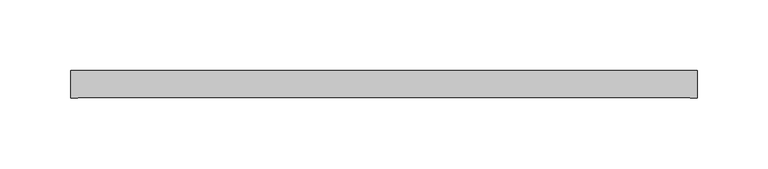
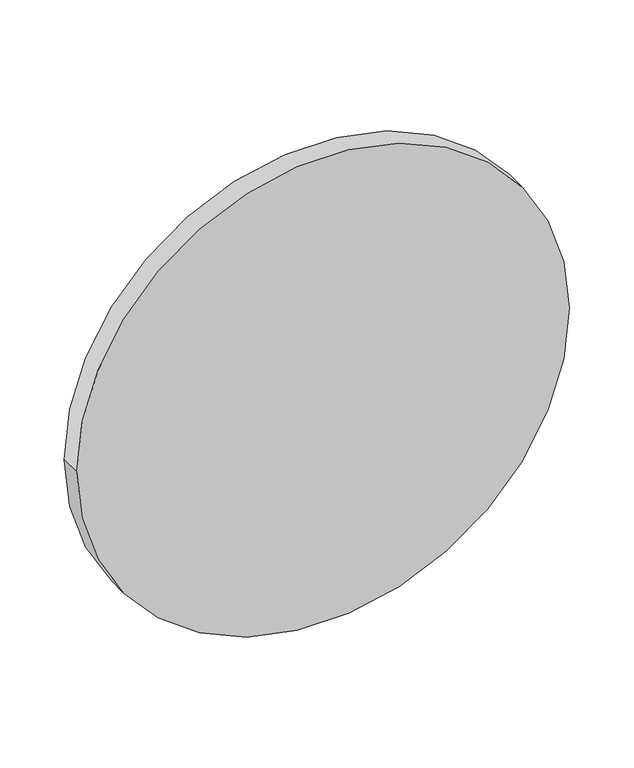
"""IFC4 building model written with IfcOpenShell, lengths in millimetres: proxy geometry, CAMBRIDGE^TABLE 3_2 BASE BOAT-BASE TOP."""

from ifc_helpers import new_model, si_unit, point, frame, frame_2d, origin, place, context, project, spatial, circle_curve, trimmed, segment, composite_curve, outline, extrude, source, transform, mapped, element, save


def generic_models_aa58a614(model_context):
    return source(origin(), model_context, "Body", "SweptSolid", [
        extrude(outline(composite_curve([segment(trimmed(circle_curve(frame_2d((-685.8, -762.0)), 220.6625), [point((-685.8, -541.3375))], [point((-685.8, -982.6625))], False, "CARTESIAN"), True, "CONTINUOUS"), segment(trimmed(circle_curve(frame_2d((-685.8, -762.0)), 220.6625), [point((-685.8, -982.6625))], [point((-685.8, -541.3375))], False, "CARTESIAN"), True, "CONTINUOUS")], self_intersect=False)), frame((0.0, -38.1, 0.0), z_axis=(0.0, 1.0, 0.0), x_axis=(0.0, 0.0, 1.0)), (0.0, 0.0, 1.0), 19.05),
    ])


if __name__ == "__main__":
    model = new_model("IFC4")
    model_context = context("Model", 3, world=origin())
    ifc_project = project(units=[si_unit("LENGTHUNIT", "METRE", prefix="MILLI")], contexts=[model_context])
    site = spatial("IfcSite", under=ifc_project)
    building = spatial("IfcBuilding", under=site)
    placement = place(None, origin())
    generic_models_shape = generic_models_aa58a614(model_context)
    element("IfcBuildingElementProxy", 1, Name="CAMBRIDGE^TABLE 3_2 BASE BOAT-BASE TOP", ObjectType="CAMBRIDGE^TABLE 3_2 BASE BOAT-BASE TOP", at=placement, inside=building, context=model_context, shape_type="MappedRepresentation", body=[
        mapped(generic_models_shape, transform((0.0, 0.0, 0.0), x_axis=(1.0, 0.0, 0.0), y_axis=(0.0, 1.0, 0.0), z_axis=(0.0, 0.0, 1.0))),
    ])
    save(model, "model.ifc")
